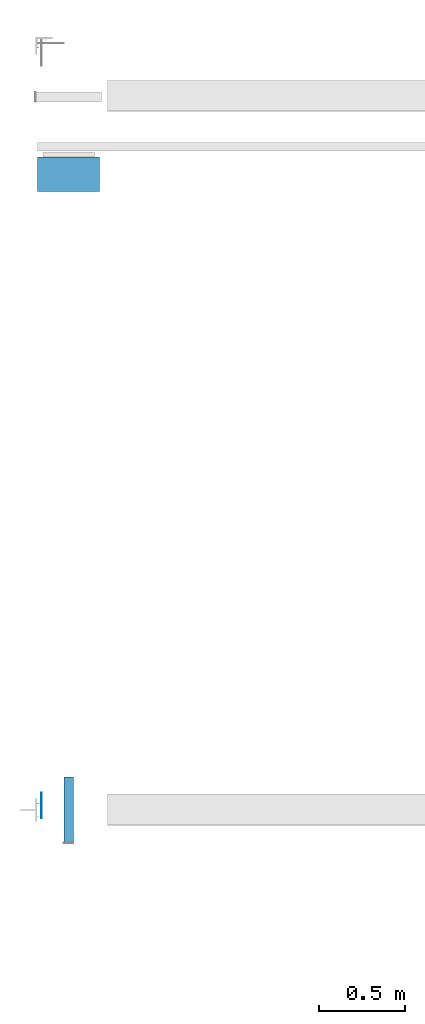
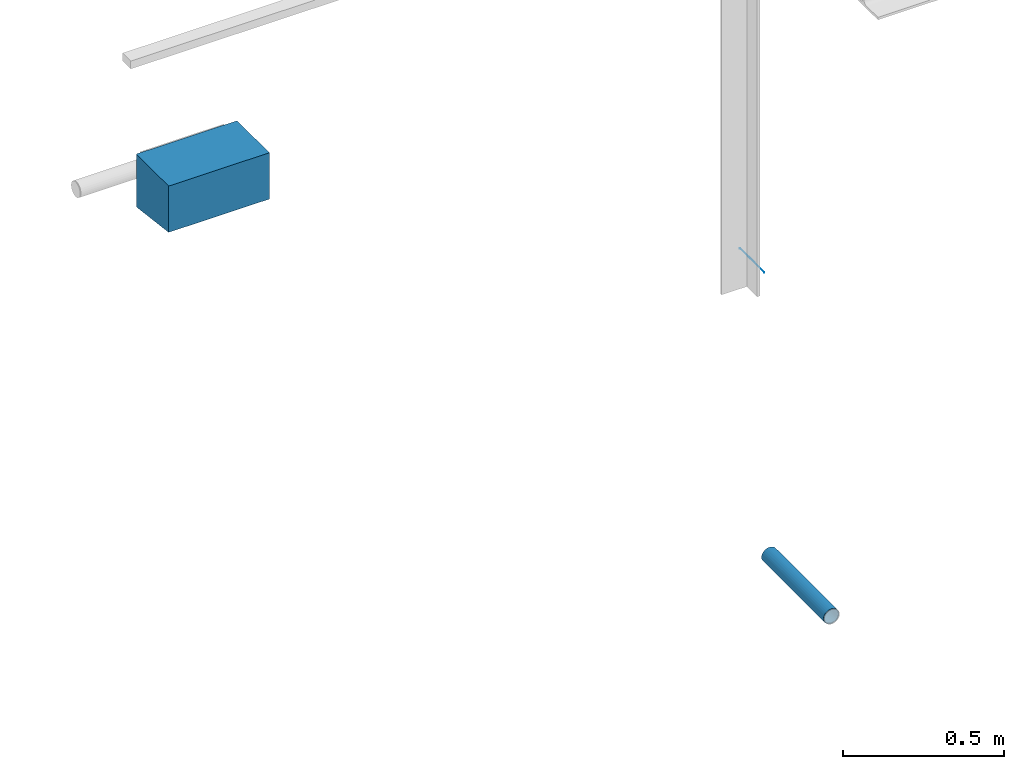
# One storey, part 19 of 186: 3 beams.
"""IFC4X3_ADD2 building model written with IfcOpenShell, lengths in millimetres."""

from ifc_helpers import new_model, entity, si_unit, direction, frame, frame_2d, origin_with_axes, place, context, subcontext, project, spatial, rectangle, hollow_circle, extrude, material, element, save


model = new_model("IFC4X3_ADD2")

# Units and contexts
model_context = context("Model", 3, precision=1e-05, world=origin_with_axes(), true_north=direction((0.0, 1.0)))
body_context = subcontext(model_context, "Body", "Model", "MODEL_VIEW")
ifc_project = project(units=[si_unit("LENGTHUNIT", "METRE", prefix="MILLI"), si_unit("AREAUNIT", "SQUARE_METRE"), si_unit("VOLUMEUNIT", "CUBIC_METRE"), si_unit("PLANEANGLEUNIT", "RADIAN"), si_unit("TIMEUNIT", "SECOND"), si_unit("MASSUNIT", "GRAM")], contexts=[model_context])

# Site, building, storey
site_placement = place(None, origin_with_axes())
site = spatial("IfcSite", under=ifc_project, at=site_placement, Name="Site", CompositionType="ELEMENT")
building_placement = place(site_placement, origin_with_axes())
building = spatial("IfcBuilding", under=site, at=building_placement, Name="IFC Building Story")
storey_placement = place(building_placement, frame((0.0, 0.0, 4370.0), z_axis=(0.0, 0.0, 1.0), x_axis=(1.0, 0.0, 0.0)))
storey = spatial("IfcBuildingStorey", under=building, at=storey_placement, Name="ETAGE 10 (1)", Elevation=4370.0)

# Beams
ifc_material_1 = material(Name="STEEL/Accessory_C60/75")
beam_1_placement = place(storey_placement, frame((4781.18934822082, 17199.9997253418, 1810.0), z_axis=(1.0, 0.0, 0.0), x_axis=(0.0, 0.0, 1.0)))
element("IfcBeam", 1, at=beam_1_placement, inside=storey, material=ifc_material_1, Name="BEK1", ObjectType="CORBEL200-200-175", context=body_context, shape_type="SweptSolid", body=[
    extrude(entity("IfcTrapeziumProfileDef", "AREA", None, entity("IfcAxis2Placement2D", entity("IfcCartesianPoint", [0.0, 5.95523630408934e-12]), entity("IfcDirection", [1.0, 0.0])), 200.0, 175.0, 200.0, 25.0), origin_with_axes(), (0.0, 0.0, 1.0), 360.0),
])
ifc_material_2 = material(Name="STEEL/Accessory_invisible")
beam_2_placement = place(storey_placement, frame((4802.68977737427, 13524.9997253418, 3789.5), z_axis=(1.0, 0.0, 0.0), x_axis=(0.0, 0.0, 1.0)))
element("IfcBeam", 2, at=beam_2_placement, inside=storey, material=ifc_material_2, Name="RH14", ObjectType="1*1 6", context=body_context, shape_type="SweptSolid", body=[
    extrude(rectangle(XDim=0.9999999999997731, YDim=150.000000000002, at=frame_2d((0.0, 5.95523630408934e-12), x_axis=(1.0, 0.0))), origin_with_axes(), (0.0, 0.0, 1.0), 0.9999999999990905),
])
ifc_material_3 = material(Name="STEEL/Accessory_PVC")
beam_3_placement = place(storey_placement, frame((4961.189777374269, 13307.9997253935, 2520.806), z_axis=(0.0, 1.0, 0.0), x_axis=(1.0, 0.0, 0.0)))
element("IfcBeam", 3, at=beam_3_placement, inside=storey, material=ifc_material_3, Name="PS13", ObjectType="O56*3", context=body_context, shape_type="SweptSolid", body=[
    extrude(hollow_circle(Radius=28.0, WallThickness=3.0, at=frame_2d((0.0, 5.95523630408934e-12), x_axis=(1.0, 0.0))), origin_with_axes(), (0.0, 0.0, 1.0), 383.9999999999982),
])

save(model, "model.ifc")
